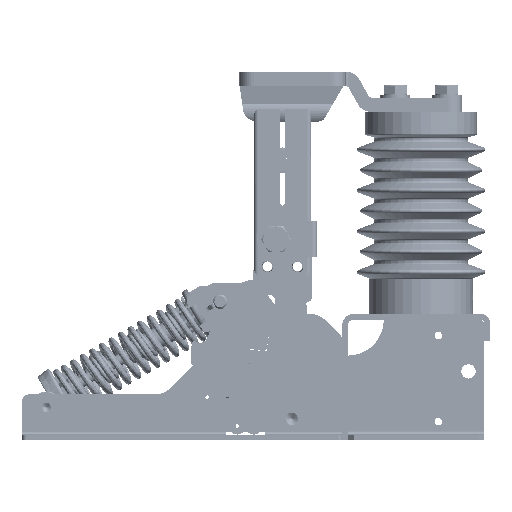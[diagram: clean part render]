
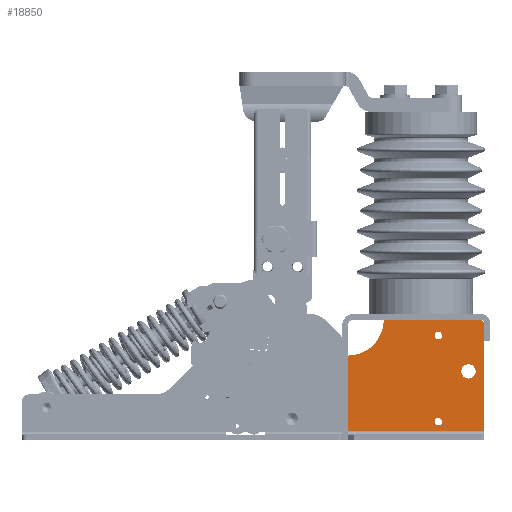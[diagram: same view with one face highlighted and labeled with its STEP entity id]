
A CAD part, left-side view. The second image highlights one B-rep face of the part: STEP entity #18850.
In plain terms, the highlighted planar face has unit normal (-1, 0, 0) as drawn and (0, 0, 1) by its records, which use the part's own axes.
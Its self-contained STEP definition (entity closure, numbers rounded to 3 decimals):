
#18850=ADVANCED_FACE('',(#35697,#35699,#35701,#35703),#35705,.T.);
#35697=FACE_BOUND('',#35698,.T.);
#35698=EDGE_LOOP('',(#43054,#43055,#43056,#43057,#43058,#43059));
#35699=FACE_BOUND('',#35700,.T.);
#35700=EDGE_LOOP('',(#43060));
#35701=FACE_BOUND('',#35702,.T.);
#35702=EDGE_LOOP('',(#43061));
#35703=FACE_BOUND('',#35704,.T.);
#35704=EDGE_LOOP('',(#43062));
#35705=PLANE('',#35706);
#35706=AXIS2_PLACEMENT_3D('',#35707,#35708,#35709);
#35707=CARTESIAN_POINT('',(0.,0.,0.));
#35708=DIRECTION('',(0.,0.,1.));
#35709=DIRECTION('',(1.,0.,0.));
#43054=ORIENTED_EDGE('',*,*,#47725,.F.);
#43055=ORIENTED_EDGE('',*,*,#47726,.T.);
#43056=ORIENTED_EDGE('',*,*,#47727,.F.);
#43057=ORIENTED_EDGE('',*,*,#47716,.T.);
#43058=ORIENTED_EDGE('',*,*,#47728,.T.);
#43059=ORIENTED_EDGE('',*,*,#47729,.T.);
#43060=ORIENTED_EDGE('',*,*,#47706,.F.);
#43061=ORIENTED_EDGE('',*,*,#47708,.F.);
#43062=ORIENTED_EDGE('',*,*,#47710,.F.);
#47706=EDGE_CURVE('',#53355,#53355,#53356,.T.);
#47708=EDGE_CURVE('',#53359,#53359,#53360,.T.);
#47710=EDGE_CURVE('',#53363,#53363,#53364,.T.);
#47716=EDGE_CURVE('',#53375,#53376,#53377,.T.);
#47725=EDGE_CURVE('',#53392,#53393,#53394,.T.);
#47726=EDGE_CURVE('',#53392,#53395,#53396,.T.);
#47727=EDGE_CURVE('',#53375,#53395,#53397,.T.);
#47728=EDGE_CURVE('',#53376,#53398,#53399,.T.);
#47729=EDGE_CURVE('',#53398,#53393,#53400,.T.);
#53355=VERTEX_POINT('',#72813);
#53356=CIRCLE('',#72814,5.);
#53359=VERTEX_POINT('',#72823);
#53360=CIRCLE('',#72824,2.625);
#53363=VERTEX_POINT('',#72833);
#53364=CIRCLE('',#72834,2.625);
#53375=VERTEX_POINT('',#72861);
#53376=VERTEX_POINT('',#72862);
#53377=LINE('',#72863,#72864);
#53392=VERTEX_POINT('',#72897);
#53393=VERTEX_POINT('',#72898);
#53394=CIRCLE('',#72899,25.);
#53395=VERTEX_POINT('',#72903);
#53396=LINE('',#72904,#72905);
#53397=LINE('',#72907,#72908);
#53398=VERTEX_POINT('',#72910);
#53399=LINE('',#72911,#72912);
#53400=LINE('',#72914,#72915);
#72813=CARTESIAN_POINT('',(-6.,48.,0.));
#72814=AXIS2_PLACEMENT_3D('',#72815,#72816,#72817);
#72815=CARTESIAN_POINT('',(-11.,48.,0.));
#72816=DIRECTION('',(0.,0.,1.));
#72817=DIRECTION('',(1.,0.,0.));
#72823=CARTESIAN_POINT('',(-29.375,13.,0.));
#72824=AXIS2_PLACEMENT_3D('',#72825,#72826,#72827);
#72825=CARTESIAN_POINT('',(-32.,13.,0.));
#72826=DIRECTION('',(0.,0.,1.));
#72827=DIRECTION('',(1.,0.,0.));
#72833=CARTESIAN_POINT('',(-29.375,73.,0.));
#72834=AXIS2_PLACEMENT_3D('',#72835,#72836,#72837);
#72835=CARTESIAN_POINT('',(-32.,73.,0.));
#72836=DIRECTION('',(0.,0.,1.));
#72837=DIRECTION('',(1.,0.,0.));
#72861=CARTESIAN_POINT('',(0.,6.5,0.));
#72862=CARTESIAN_POINT('',(0.,82.,0.));
#72863=CARTESIAN_POINT('',(0.,6.5,0.));
#72864=VECTOR('',#72865,1.);
#72865=DIRECTION('',(0.,1.,0.));
#72897=CARTESIAN_POINT('',(-95.,59.,0.));
#72898=CARTESIAN_POINT('',(-70.,84.,0.));
#72899=AXIS2_PLACEMENT_3D('',#72900,#72901,#72902);
#72900=CARTESIAN_POINT('',(-95.,84.,0.));
#72901=DIRECTION('',(0.,0.,1.));
#72902=DIRECTION('',(0.,-1.,0.));
#72903=CARTESIAN_POINT('',(-95.,6.5,0.));
#72904=CARTESIAN_POINT('',(-95.,59.,0.));
#72905=VECTOR('',#72906,1.);
#72906=DIRECTION('',(0.,-1.,0.));
#72907=CARTESIAN_POINT('',(0.,6.5,0.));
#72908=VECTOR('',#72909,1.);
#72909=DIRECTION('',(-1.,0.,0.));
#72910=CARTESIAN_POINT('',(-2.,84.,0.));
#72911=CARTESIAN_POINT('',(0.,82.,0.));
#72912=VECTOR('',#72913,1.);
#72913=DIRECTION('',(-0.707,0.707,0.));
#72914=CARTESIAN_POINT('',(-2.,84.,0.));
#72915=VECTOR('',#72916,1.);
#72916=DIRECTION('',(-1.,0.,0.));
